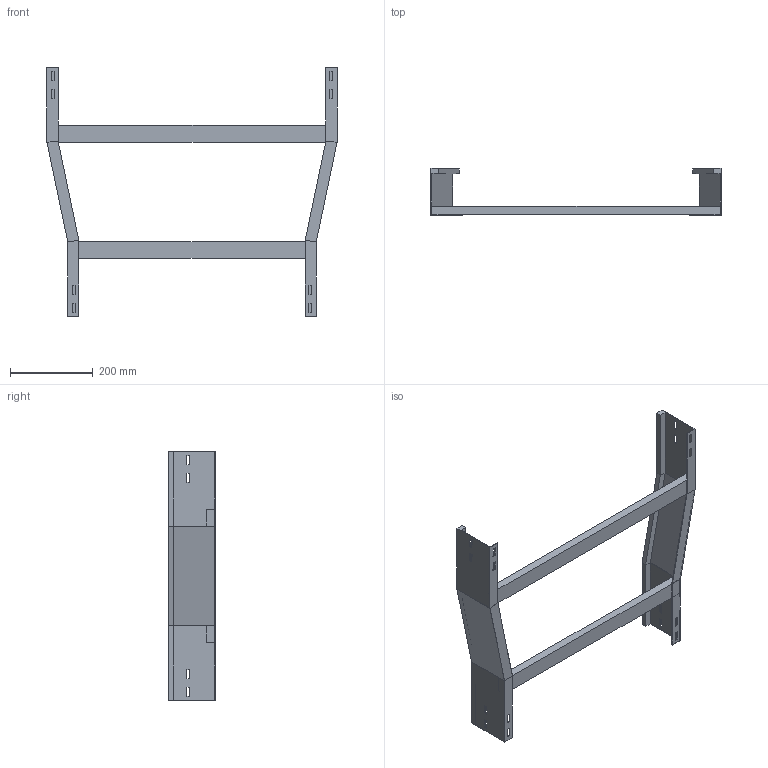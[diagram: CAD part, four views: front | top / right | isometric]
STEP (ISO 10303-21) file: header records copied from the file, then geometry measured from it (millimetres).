
FILE_DESCRIPTION (( 'STEP AP214' ), '1' );
FILE_NAME ('B2X20B6J700XX.step', '2025-09-02T17:15:13', ( '' ), ( '' ), 'SwSTEP 2.0', 'SolidWorks 2023', '' );
FILE_SCHEMA (( 'AUTOMOTIVE_DESIGN' ));
Length unit declared in the file: millimetre
Products named in the file (4): TRAVERSINO_600; B2X20B6J700XX; TRAVERSINO_700; SPONDA RID. CENTRALE 700-600_H112.5
Assembly tree (3 placements, depth 2):
  B2X20B6J700XX
    SPONDA RID. CENTRALE 700-600_H112.5
    TRAVERSINO_600
    TRAVERSINO_700
Bounding box: 700 x 112.5 x 600 mm (x, y, z)
Volume: 1606804.9 mm3; surface area: 534773.2 mm2
Topology: 4 solids, 4 shells, 128 faces, 328 edges, 208 vertices
Faces by surface type: plane 128
Entity records: 3950 total; most frequent: CARTESIAN_POINT 670, ORIENTED_EDGE 656, DIRECTION 596, LINE 328, VECTOR 328, EDGE_CURVE 328, VERTEX_POINT 208, EDGE_LOOP 160
